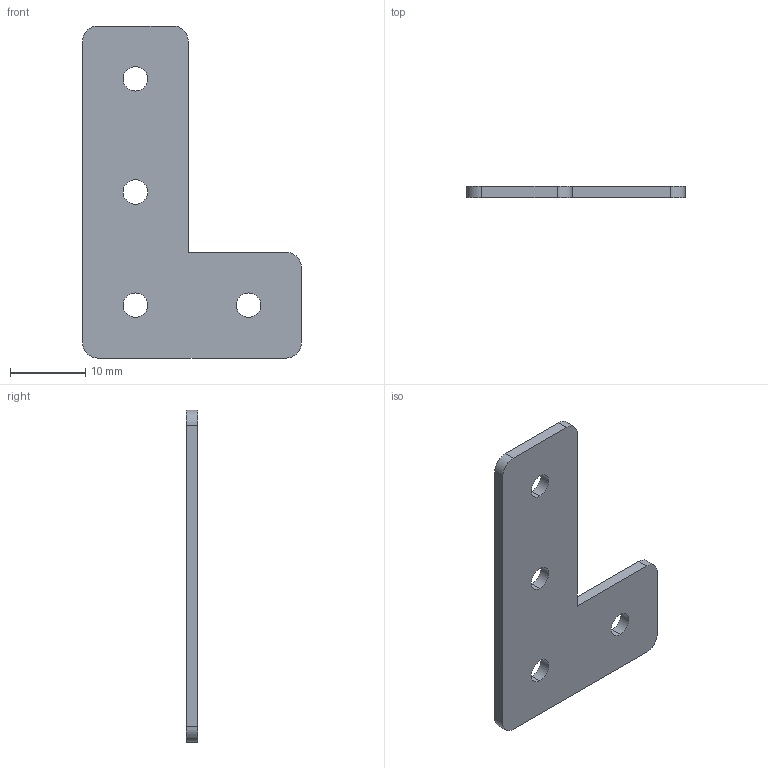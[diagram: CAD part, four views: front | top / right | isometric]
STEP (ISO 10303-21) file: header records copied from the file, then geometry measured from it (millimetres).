
FILE_DESCRIPTION (( 'STEP AP214' ), '1' );
FILE_NAME ('SNSD.15.00.02 Ã-ñîåäåíèòåëü_30õ45B(S106).STEP', '2015-06-24T08:21:32', ( 'user' ), ( '' ), 'SwSTEP 2.0', 'SolidWorks 2014', '' );
FILE_SCHEMA (( 'AUTOMOTIVE_DESIGN' ));
Length unit declared in the file: millimetre
Products named in the file (2): SNSD.15.00.02 Ã-ñîåäåíèòåëü_30õ45B(S106)
Bounding box: 29 x 1.5 x 44 mm (x, y, z)
Volume: 1182.8 mm3; surface area: 1850.9 mm2
Topology: 1 solids, 1 shells, 21 faces, 57 edges, 38 vertices
Faces by surface type: cylinder 13, plane 8
Entity records: 742 total; most frequent: DIRECTION 129, CARTESIAN_POINT 118, ORIENTED_EDGE 114, EDGE_CURVE 57, AXIS2_PLACEMENT_3D 49, VERTEX_POINT 38, LINE 31, VECTOR 31
